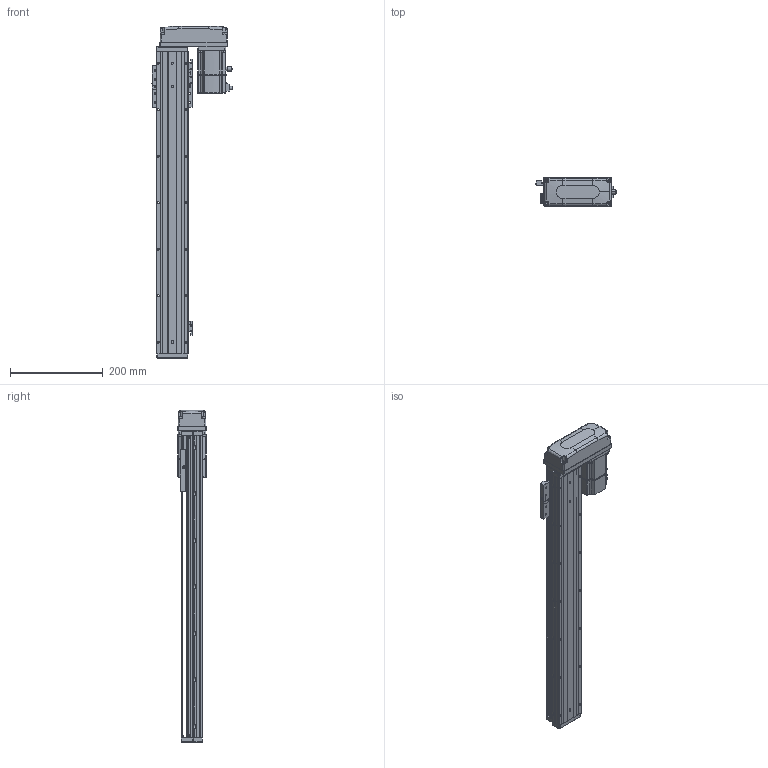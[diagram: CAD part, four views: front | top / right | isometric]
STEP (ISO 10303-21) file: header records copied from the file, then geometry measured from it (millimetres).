
FILE_DESCRIPTION (( 'STEP AP203' ), '1' );
FILE_NAME ('KTHAL60-500-BL-M20-C4L.step', '2022-12-16T02:06:46', ( '微软用户' ), ( '微软中国' ), 'SwSTEP 2.0', 'SolidWorks 2020', '' );
FILE_SCHEMA (( 'CONFIG_CONTROL_DESIGN' ));
Length unit declared in the file: millimetre
Products named in the file (17): EE_SX911P_R; _X2_4E0983F1_X0_200W_1; CTHA60-017; CTHA60-015-4_CTHA60-015-4; KTHA60-001_650; CTHA60-021; GTH80-026; KTHLA60-002; GBT 70.1-M4×16; KTHAL60-500-BL-M20-C4L; KTHA60-004; GBT77-2000M3-3; KTHA60-005; GBT 70.1-M3℅6; GB¨uT 70.2-M3¡Á5_M3¡Á6; CTHA60-016; GBT 70.3-M3℅6
Assembly tree (45 placements, depth 2):
  KTHAL60-500-BL-M20-C4L
    KTHA60-001_650
    KTHLA60-002
    KTHA60-004
    KTHA60-005
    GB¨uT 70.2-M3¡Á5_M3¡Á6  x5
    GBT 70.3-M3℅6  x4
    EE_SX911P_R  x3
    CTHA60-017  x3
    CTHA60-021  x2
    GBT 70.1-M4×16  x8
    GBT77-2000M3-3  x6
    GBT 70.1-M3℅6  x6
    CTHA60-016
    _X2_4E0983F1_X0_200W_1
    CTHA60-015-4_CTHA60-015-4
    GTH80-026
Bounding box: 172.2 x 62.42 x 714 mm (x, y, z)
Volume: 1923555.9 mm3; surface area: 411386.7 mm2
Topology: 48 solids, 48 shells, 2351 faces, 5604 edges, 3445 vertices
Faces by surface type: plane 1259, cylinder 623, cone 270, bspline 103, torus 82, sphere 14
Entity records: 45893 total; most frequent: CARTESIAN_POINT 10266, DIRECTION 6921, ORIENTED_EDGE 6832, EDGE_CURVE 3416, AXIS2_PLACEMENT_3D 2384, LINE 2153, VECTOR 2153, VERTEX_POINT 2129
